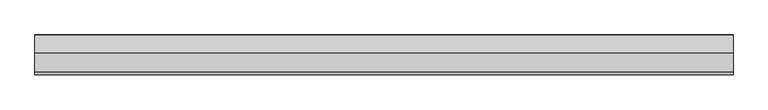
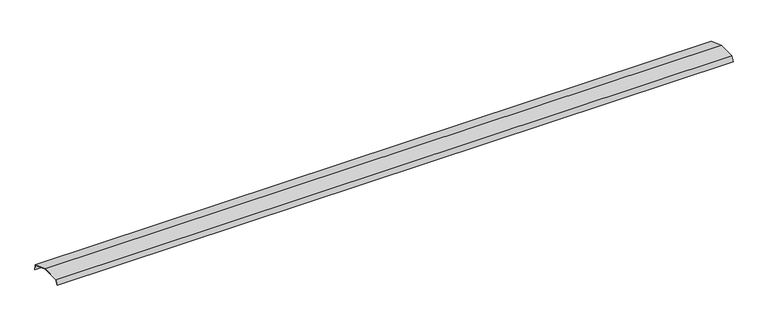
"""IFC4 building model written with IfcOpenShell, lengths in millimetres: proxy geometry, ATELIERS 3S_PARISIENNE 1000_NON-VENTILATED DOUBLE ROOF RIDGE : ATELIERS 3S_PARISIENNE 1000_NON-VENTILATED DOUBLE ROOF RIDGE."""

from ifc_helpers import new_model, si_unit, frame, origin, place, context, project, spatial, polyline, outline, extrude, source, transform, mapped, element, save


def generic_models_2af207e9(model_context):
    return source(origin(), model_context, "Body", "SweptSolid", [
        extrude(outline(polyline([(-154.823673, 1.0), (0.176327, 1.0), (145.8286832, -52.0131222), (149.7506916, -96.8418836), (148.7544969, -96.9290394), (144.8880128, -52.734924), (0.0, 0.0), (-154.1866028, 0.0), (-172.935187, -40.2064687), (-173.8414948, -39.7838504), (-154.823673, 1.0)])), frame((0.0, 0.0, 0.0), z_axis=(1.0, 0.0, 0.0), x_axis=(0.0, 1.0, 0.0)), (0.0, 0.0, 1.0), 5661.0),
    ])


if __name__ == "__main__":
    model = new_model("IFC4")
    model_context = context("Model", 3, world=origin())
    ifc_project = project(units=[si_unit("LENGTHUNIT", "METRE", prefix="MILLI")], contexts=[model_context])
    site = spatial("IfcSite", under=ifc_project)
    building = spatial("IfcBuilding", under=site)
    placement = place(None, origin())
    generic_models_shape = generic_models_2af207e9(model_context)
    element("IfcBuildingElementProxy", 1, Name="ATELIERS 3S_PARISIENNE 1000_NON-VENTILATED DOUBLE ROOF RIDGE : ATELIERS 3S_PARISIENNE 1000_NON-VENTILATED DOUBLE ROOF RIDGE", ObjectType="ATELIERS 3S_PARISIENNE 1000_NON-VENTILATED DOUBLE ROOF RIDGE : ATELIERS 3S_PARISIENNE 1000_NON-VENTILATED DOUBLE ROOF RIDGE", at=placement, inside=building, context=model_context, shape_type="MappedRepresentation", body=[
        mapped(generic_models_shape, transform((0.0, 0.0, 0.0), x_axis=(1.0, 0.0, 0.0), y_axis=(0.0, 1.0, 0.0), z_axis=(0.0, 0.0, 1.0))),
    ])
    save(model, "model.ifc")
